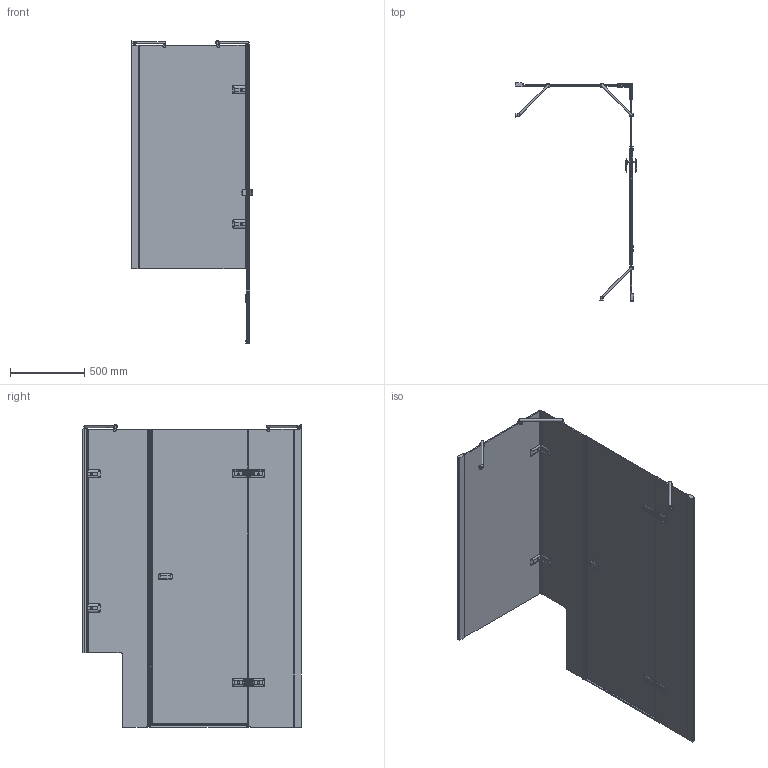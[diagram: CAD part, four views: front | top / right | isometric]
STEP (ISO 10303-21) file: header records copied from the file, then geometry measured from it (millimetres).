
FILE_DESCRIPTION(/* description */ (''),/* implementation_level */ '2;1');
FILE_NAME(/* name */ 'D:\4\98\TREND RECTAN GK-864B1VP\TREND RECTAN GK-864B1VP левая модель\TREND RECTAN GK-864B1VP ЛЕВАЯ-3D.stp',/* time_stamp */ '2018-06-08T11:46:58+03:00',/* author */ ('ChechurovS'),/* organization */ (''),/* preprocessor_version */ 'ST-DEVELOPER v15.2',/* originating_system */ 'Autodesk Inventor 2014',/* authorisation */ '');
FILE_SCHEMA (('CONFIG_CONTROL_DESIGN'));
Products named in the file (1): TREND RECTAN GK-864B1VP ЛЕВАЯ-3
D
Bounding box: 812.64 x 1463.94 x 2031.5 mm (x, y, z)
Volume: 32487141.3 mm3; surface area: 8441992.7 mm2
Topology: 15 solids, 15 shells, 1542 faces, 4053 edges, 2511 vertices
Faces by surface type: plane 901, cylinder 393, bspline 164, torus 44, sphere 22, cone 18
Full cylindrical faces by diameter (mm): 6 x2, 9 x8, 12 x4, 13 x2, 15 x3, 20 x6, 26 x2
Entity records: 67874 total; most frequent: CARTESIAN_POINT 29614, ORIENTED_EDGE 7792, DIRECTION 7332, EDGE_CURVE 3896, VERTEX_POINT 2465, AXIS2_PLACEMENT_3D 2461, LINE 2410, VECTOR 2410
